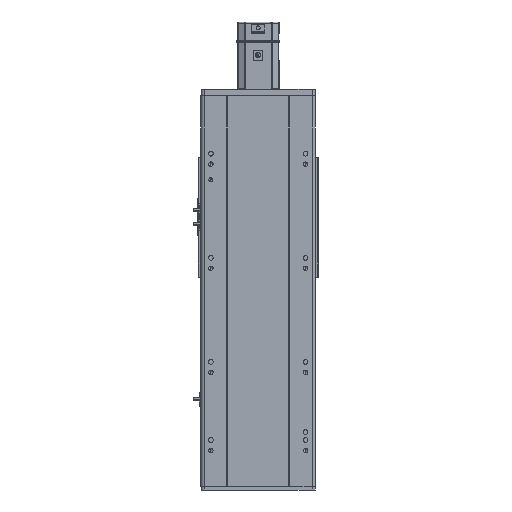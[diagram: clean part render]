
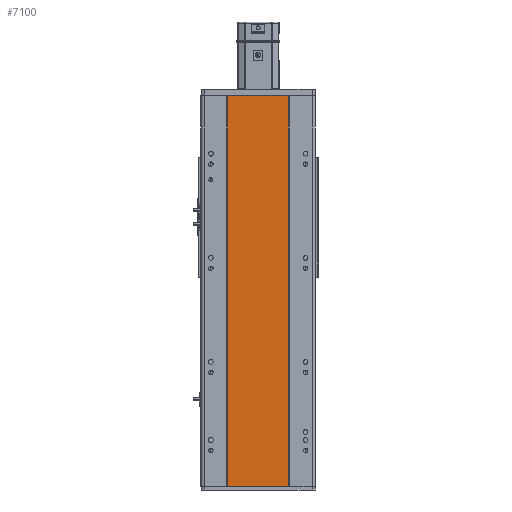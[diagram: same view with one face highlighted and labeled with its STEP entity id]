
A CAD part, front view. The second image highlights one B-rep face of the part: STEP entity #7100.
In plain terms, the highlighted planar face has unit normal (0, -1, 0).
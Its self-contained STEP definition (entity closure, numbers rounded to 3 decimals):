
#1025 = LINE ( 'NONE', #26547, #25954 ) ;
#2771 = CARTESIAN_POINT ( 'NONE',  ( -59., 1., -375.5 ) ) ;
#2840 = EDGE_CURVE ( 'NONE', #22449, #7445, #12846, .T. ) ;
#3528 = DIRECTION ( 'NONE',  ( 1., 0., 0. ) ) ;
#3895 = ORIENTED_EDGE ( 'NONE', *, *, #16246, .F. ) ;
#4153 = CARTESIAN_POINT ( 'NONE',  ( 59., 1., -375.5 ) ) ;
#5487 = EDGE_CURVE ( 'NONE', #10421, #11250, #13946, .T. ) ;
#5861 = EDGE_LOOP ( 'NONE', ( #10196, #3895, #26677, #30484 ) ) ;
#6423 = VECTOR ( 'NONE', #3528, 1000. ) ;
#6569 = CARTESIAN_POINT ( 'NONE',  ( -59., 1., 375.5 ) ) ;
#6694 = PLANE ( 'NONE',  #24488 ) ;
#7056 = CARTESIAN_POINT ( 'NONE',  ( 59., 1., 375.5 ) ) ;
#7100 = ADVANCED_FACE ( 'NONE', ( #19234 ), #6694, .F. ) ;
#7445 = VERTEX_POINT ( 'NONE', #24003 ) ;
#8690 = CARTESIAN_POINT ( 'NONE',  ( -59., 1., 375.5 ) ) ;
#10196 = ORIENTED_EDGE ( 'NONE', *, *, #5487, .T. ) ;
#10421 = VERTEX_POINT ( 'NONE', #2771 ) ;
#11250 = VERTEX_POINT ( 'NONE', #4153 ) ;
#12846 = LINE ( 'NONE', #8690, #31097 ) ;
#13152 = DIRECTION ( 'NONE',  ( -1., 0., 0. ) ) ;
#13946 = LINE ( 'NONE', #34524, #6423 ) ;
#16154 = VECTOR ( 'NONE', #26977, 1000. ) ;
#16246 = EDGE_CURVE ( 'NONE', #7445, #11250, #25549, .T. ) ;
#19234 = FACE_OUTER_BOUND ( 'NONE', #5861, .T. ) ;
#20379 = EDGE_CURVE ( 'NONE', #22449, #10421, #1025, .T. ) ;
#22449 = VERTEX_POINT ( 'NONE', #35345 ) ;
#24003 = CARTESIAN_POINT ( 'NONE',  ( 59., 1., 375.5 ) ) ;
#24488 = AXIS2_PLACEMENT_3D ( 'NONE', #6569, #35449, #13152 ) ;
#25549 = LINE ( 'NONE', #7056, #16154 ) ;
#25954 = VECTOR ( 'NONE', #35874, 1000. ) ;
#26547 = CARTESIAN_POINT ( 'NONE',  ( -59., 1., 375.5 ) ) ;
#26677 = ORIENTED_EDGE ( 'NONE', *, *, #2840, .F. ) ;
#26977 = DIRECTION ( 'NONE',  ( 0., 0., -1. ) ) ;
#28569 = DIRECTION ( 'NONE',  ( 1., 0., 0. ) ) ;
#30484 = ORIENTED_EDGE ( 'NONE', *, *, #20379, .T. ) ;
#31097 = VECTOR ( 'NONE', #28569, 1000. ) ;
#34524 = CARTESIAN_POINT ( 'NONE',  ( -59., 1., -375.5 ) ) ;
#35345 = CARTESIAN_POINT ( 'NONE',  ( -59., 1., 375.5 ) ) ;
#35449 = DIRECTION ( 'NONE',  ( 0., 1., 0. ) ) ;
#35874 = DIRECTION ( 'NONE',  ( 0., 0., -1. ) ) ;
